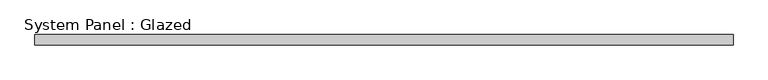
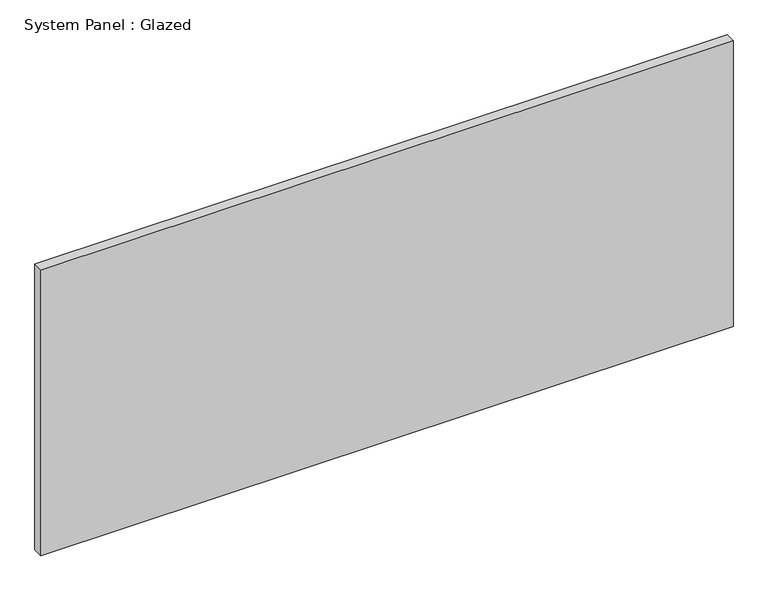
"""IFC4 building model written with IfcOpenShell, lengths in millimetres: plate geometry, System Panel : Glazed."""

from ifc_helpers import new_model, si_unit, origin, origin_with_axes, place, context, project, spatial, polyline, outline, extrude, source, transform, mapped, element, save


def system_panel_glazed_cbf6da43(model_context):
    return source(origin(), model_context, "Body", "SweptSolid", [
        extrude(outline(polyline([(939.1009533, -14.0), (-939.1009533, -14.0), (-939.1009533, 14.0), (939.1009533, 14.0), (939.1009533, -14.0)])), origin_with_axes(), (0.0, 0.0, 1.0), 820.5),
    ])


if __name__ == "__main__":
    model = new_model("IFC4")
    model_context = context("Model", 3, world=origin())
    ifc_project = project(units=[si_unit("LENGTHUNIT", "METRE", prefix="MILLI")], contexts=[model_context])
    site = spatial("IfcSite", under=ifc_project)
    building = spatial("IfcBuilding", under=site)
    placement = place(None, origin())
    system_panel_glazed_shape = system_panel_glazed_cbf6da43(model_context)
    element("IfcPlate", 1, ObjectType="System Panel : Glazed", at=placement, inside=building, context=model_context, shape_type="MappedRepresentation", body=[
        mapped(system_panel_glazed_shape, transform((0.0, 0.0, 0.0), x_axis=(1.0, 0.0, 0.0), y_axis=(0.0, 1.0, 0.0), z_axis=(0.0, 0.0, 1.0))),
    ])
    save(model, "model.ifc")
